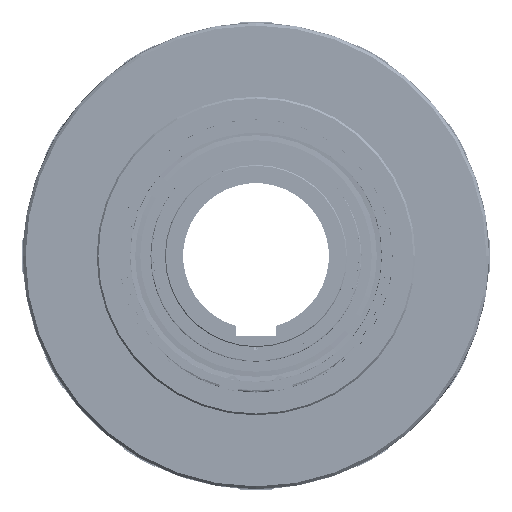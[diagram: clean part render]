
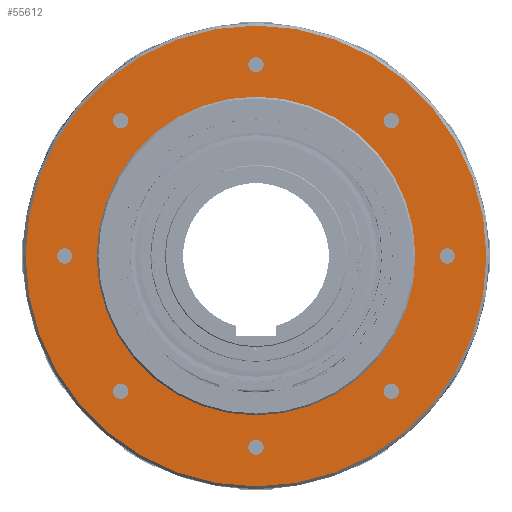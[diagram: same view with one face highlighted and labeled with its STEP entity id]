
A CAD part, left-side view. The second image highlights one B-rep face of the part: STEP entity #55612.
In plain terms, the highlighted planar face has unit normal (-1, 0, 0).
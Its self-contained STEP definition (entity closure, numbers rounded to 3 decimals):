
#885=PLANE('',#61008);
#9983=FACE_BOUND('',#14708,.T.);
#9984=FACE_BOUND('',#14709,.T.);
#9985=FACE_BOUND('',#14710,.T.);
#9986=FACE_BOUND('',#14711,.T.);
#9987=FACE_BOUND('',#14712,.T.);
#9988=FACE_BOUND('',#14713,.T.);
#9989=FACE_BOUND('',#14714,.T.);
#9990=FACE_BOUND('',#14715,.T.);
#9991=FACE_BOUND('',#14716,.T.);
#11446=FACE_OUTER_BOUND('',#14707,.T.);
#14707=EDGE_LOOP('',(#43108));
#14708=EDGE_LOOP('',(#43109));
#14709=EDGE_LOOP('',(#43110));
#14710=EDGE_LOOP('',(#43111));
#14711=EDGE_LOOP('',(#43112));
#14712=EDGE_LOOP('',(#43113));
#14713=EDGE_LOOP('',(#43114));
#14714=EDGE_LOOP('',(#43115));
#14715=EDGE_LOOP('',(#43116));
#14716=EDGE_LOOP('',(#43117));
#19066=CIRCLE('',#60975,87.5);
#19070=CIRCLE('',#60981,126.5);
#19096=CIRCLE('',#61009,4.188);
#19097=CIRCLE('',#61010,4.188);
#19098=CIRCLE('',#61011,4.188);
#19099=CIRCLE('',#61012,4.188);
#19100=CIRCLE('',#61013,4.188);
#19101=CIRCLE('',#61014,4.188);
#19102=CIRCLE('',#61015,4.188);
#19103=CIRCLE('',#61016,4.188);
#24525=VERTEX_POINT('',#123189);
#24529=VERTEX_POINT('',#123200);
#24579=VERTEX_POINT('',#123306);
#24580=VERTEX_POINT('',#123308);
#24581=VERTEX_POINT('',#123310);
#24582=VERTEX_POINT('',#123312);
#24583=VERTEX_POINT('',#123314);
#24584=VERTEX_POINT('',#123316);
#24585=VERTEX_POINT('',#123318);
#24586=VERTEX_POINT('',#123320);
#31441=EDGE_CURVE('',#24525,#24525,#19066,.T.);
#31447=EDGE_CURVE('',#24529,#24529,#19070,.T.);
#31500=EDGE_CURVE('',#24579,#24579,#19096,.T.);
#31501=EDGE_CURVE('',#24580,#24580,#19097,.T.);
#31502=EDGE_CURVE('',#24581,#24581,#19098,.T.);
#31503=EDGE_CURVE('',#24582,#24582,#19099,.T.);
#31504=EDGE_CURVE('',#24583,#24583,#19100,.T.);
#31505=EDGE_CURVE('',#24584,#24584,#19101,.T.);
#31506=EDGE_CURVE('',#24585,#24585,#19102,.T.);
#31507=EDGE_CURVE('',#24586,#24586,#19103,.T.);
#43108=ORIENTED_EDGE('',*,*,#31447,.F.);
#43109=ORIENTED_EDGE('',*,*,#31441,.T.);
#43110=ORIENTED_EDGE('',*,*,#31500,.T.);
#43111=ORIENTED_EDGE('',*,*,#31501,.T.);
#43112=ORIENTED_EDGE('',*,*,#31502,.T.);
#43113=ORIENTED_EDGE('',*,*,#31503,.T.);
#43114=ORIENTED_EDGE('',*,*,#31504,.T.);
#43115=ORIENTED_EDGE('',*,*,#31505,.T.);
#43116=ORIENTED_EDGE('',*,*,#31506,.T.);
#43117=ORIENTED_EDGE('',*,*,#31507,.T.);
#55612=ADVANCED_FACE('',(#11446,#9983,#9984,#9985,#9986,#9987,#9988,#9989,
#9990,#9991),#885,.T.);
#60975=AXIS2_PLACEMENT_3D('',#123190,#73553,#73554);
#60981=AXIS2_PLACEMENT_3D('',#123202,#73567,#73568);
#61008=AXIS2_PLACEMENT_3D('',#123305,#73648,#73649);
#61009=AXIS2_PLACEMENT_3D('',#123307,#73650,#73651);
#61010=AXIS2_PLACEMENT_3D('',#123309,#73652,#73653);
#61011=AXIS2_PLACEMENT_3D('',#123311,#73654,#73655);
#61012=AXIS2_PLACEMENT_3D('',#123313,#73656,#73657);
#61013=AXIS2_PLACEMENT_3D('',#123315,#73658,#73659);
#61014=AXIS2_PLACEMENT_3D('',#123317,#73660,#73661);
#61015=AXIS2_PLACEMENT_3D('',#123319,#73662,#73663);
#61016=AXIS2_PLACEMENT_3D('',#123321,#73664,#73665);
#73553=DIRECTION('center_axis',(1.,0.,0.));
#73554=DIRECTION('ref_axis',(0.,-1.,0.));
#73567=DIRECTION('center_axis',(1.,0.,0.));
#73568=DIRECTION('ref_axis',(0.,1.,0.));
#73648=DIRECTION('center_axis',(-1.,0.,0.));
#73649=DIRECTION('ref_axis',(0.,0.,-1.));
#73650=DIRECTION('center_axis',(1.,0.,0.));
#73651=DIRECTION('ref_axis',(0.,0.,-1.));
#73652=DIRECTION('center_axis',(1.,0.,0.));
#73653=DIRECTION('ref_axis',(0.,0.,-1.));
#73654=DIRECTION('center_axis',(1.,0.,0.));
#73655=DIRECTION('ref_axis',(0.,0.,-1.));
#73656=DIRECTION('center_axis',(1.,0.,0.));
#73657=DIRECTION('ref_axis',(0.,0.,-1.));
#73658=DIRECTION('center_axis',(1.,0.,0.));
#73659=DIRECTION('ref_axis',(0.,0.,-1.));
#73660=DIRECTION('center_axis',(1.,0.,0.));
#73661=DIRECTION('ref_axis',(0.,0.,-1.));
#73662=DIRECTION('center_axis',(1.,0.,0.));
#73663=DIRECTION('ref_axis',(0.,0.,-1.));
#73664=DIRECTION('center_axis',(1.,0.,0.));
#73665=DIRECTION('ref_axis',(0.,0.,-1.));
#123189=CARTESIAN_POINT('',(-59.,87.5,0.));
#123190=CARTESIAN_POINT('Origin',(-59.,0.,0.));
#123200=CARTESIAN_POINT('',(-59.,-126.5,0.));
#123202=CARTESIAN_POINT('Origin',(-59.,0.,0.));
#123305=CARTESIAN_POINT('Origin',(-59.,-107.75,0.));
#123306=CARTESIAN_POINT('',(-59.,-105.,4.188));
#123307=CARTESIAN_POINT('Origin',(-59.,-105.,0.));
#123308=CARTESIAN_POINT('',(-59.,-74.246,78.434));
#123309=CARTESIAN_POINT('Origin',(-59.,-74.246,74.246));
#123310=CARTESIAN_POINT('',(-59.,0.,109.188));
#123311=CARTESIAN_POINT('Origin',(-59.,0.,105.));
#123312=CARTESIAN_POINT('',(-59.,74.246,78.434));
#123313=CARTESIAN_POINT('Origin',(-59.,74.246,74.246));
#123314=CARTESIAN_POINT('',(-59.,105.,4.188));
#123315=CARTESIAN_POINT('Origin',(-59.,105.,0.));
#123316=CARTESIAN_POINT('',(-59.,74.246,-70.058));
#123317=CARTESIAN_POINT('Origin',(-59.,74.246,-74.246));
#123318=CARTESIAN_POINT('',(-59.,0.,-100.812));
#123319=CARTESIAN_POINT('Origin',(-59.,0.,-105.));
#123320=CARTESIAN_POINT('',(-59.,-74.246,-70.058));
#123321=CARTESIAN_POINT('Origin',(-59.,-74.246,-74.246));
